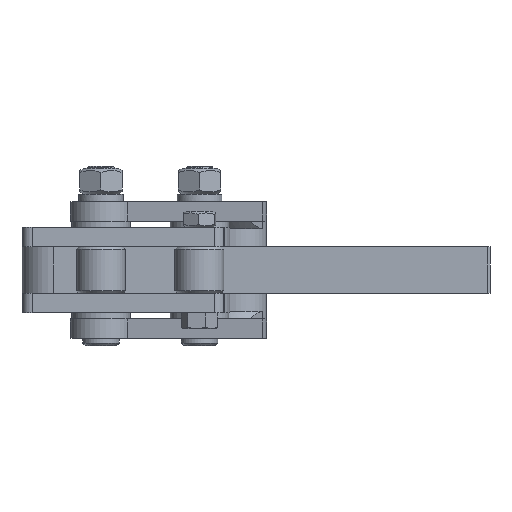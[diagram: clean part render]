
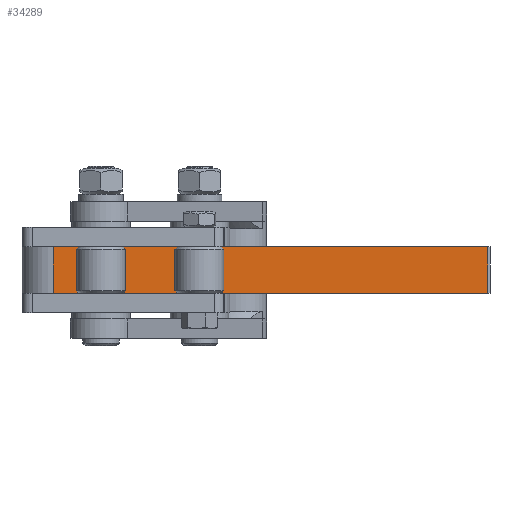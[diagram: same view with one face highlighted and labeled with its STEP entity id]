
A CAD part, front view. The second image highlights one B-rep face of the part: STEP entity #34289.
In plain terms, the highlighted planar face has unit normal (0, -1, 0) as drawn and (1, 0, 0) by its records, which use the part's own axes.
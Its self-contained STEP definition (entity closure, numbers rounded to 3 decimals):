
#1139=PLANE('',#36972);
#3533=FACE_OUTER_BOUND('',#5406,.T.);
#5406=EDGE_LOOP('',(#29513,#29514,#29515,#29516));
#10037=LINE('',#78324,#12732);
#10045=LINE('',#78341,#12740);
#10048=LINE('',#78347,#12743);
#10049=LINE('',#78349,#12744);
#12732=VECTOR('',#43484,1000.);
#12740=VECTOR('',#43494,1000.);
#12743=VECTOR('',#43503,1000.);
#12744=VECTOR('',#43506,1000.);
#16066=VERTEX_POINT('',#78321);
#16067=VERTEX_POINT('',#78323);
#16074=VERTEX_POINT('',#78338);
#16075=VERTEX_POINT('',#78340);
#20743=EDGE_CURVE('',#16066,#16067,#10037,.T.);
#20751=EDGE_CURVE('',#16075,#16074,#10045,.T.);
#20755=EDGE_CURVE('',#16066,#16075,#10048,.T.);
#20756=EDGE_CURVE('',#16067,#16074,#10049,.T.);
#29513=ORIENTED_EDGE('',*,*,#20751,.T.);
#29514=ORIENTED_EDGE('',*,*,#20756,.F.);
#29515=ORIENTED_EDGE('',*,*,#20743,.F.);
#29516=ORIENTED_EDGE('',*,*,#20755,.T.);
#34289=ADVANCED_FACE('',(#3533),#1139,.F.);
#36972=AXIS2_PLACEMENT_3D('',#78348,#43504,#43505);
#43484=DIRECTION('',(0.,1.,0.));
#43494=DIRECTION('',(0.,1.,0.));
#43503=DIRECTION('',(0.,0.,-1.));
#43504=DIRECTION('center_axis',(-1.,0.,0.));
#43505=DIRECTION('ref_axis',(0.,0.,1.));
#43506=DIRECTION('',(0.,0.,-1.));
#78321=CARTESIAN_POINT('',(12.7,0.,19.));
#78323=CARTESIAN_POINT('',(12.7,177.8,19.));
#78324=CARTESIAN_POINT('',(12.7,0.,19.));
#78338=CARTESIAN_POINT('',(12.7,177.8,0.));
#78340=CARTESIAN_POINT('',(12.7,0.,0.));
#78341=CARTESIAN_POINT('',(12.7,0.,0.));
#78347=CARTESIAN_POINT('',(12.7,0.,19.));
#78348=CARTESIAN_POINT('Origin',(12.7,0.,19.));
#78349=CARTESIAN_POINT('',(12.7,177.8,19.));
